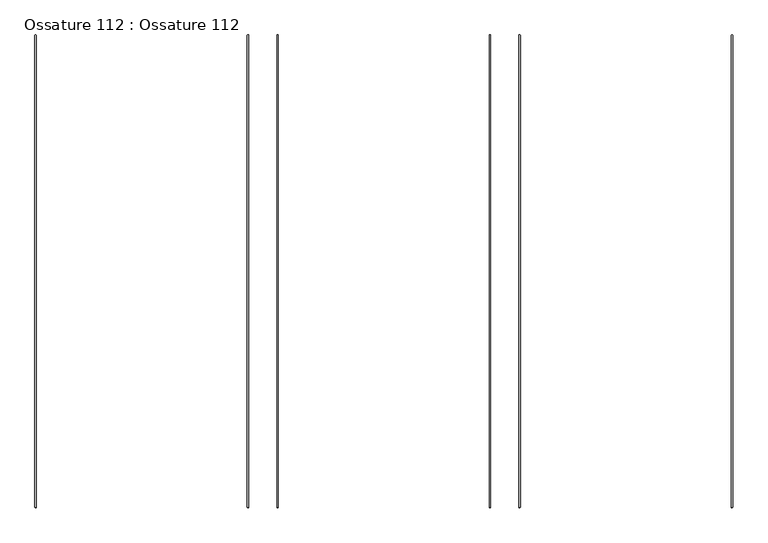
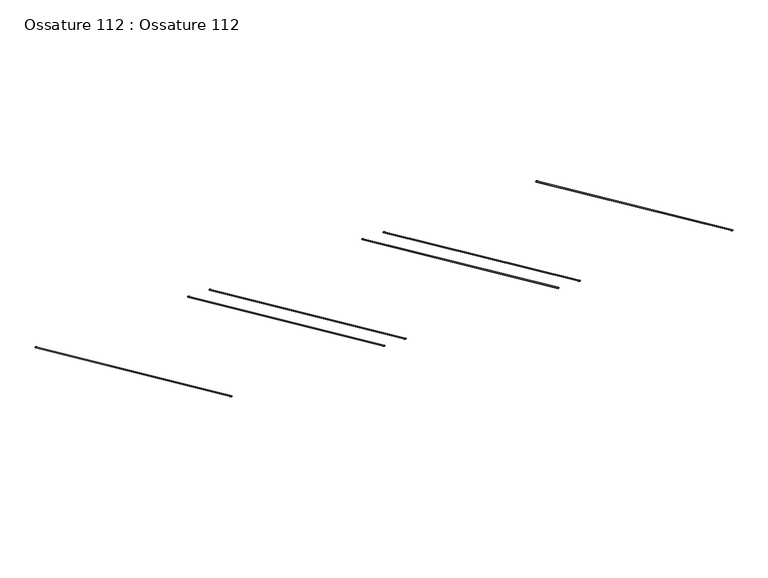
"""IFC4 building model written with IfcOpenShell, lengths in millimetres: beam geometry, Ossature 112 : Ossature 112."""

from ifc_helpers import new_model, si_unit, point, frame, origin, origin_2d, place, context, project, spatial, circle_curve, trimmed, segment, composite_curve, outline, extrude, source, transform, mapped, element, save


def ossature_112_ossature_112_9404aaf8(model_context):
    return source(origin(), model_context, "Body", "SweptSolid", [
        extrude(outline(composite_curve([segment(trimmed(circle_curve(origin_2d(), 2.5), [point((0.0, 2.5))], [point((0.0, -2.5))], False, "CARTESIAN"), True, "CONTINUOUS"), segment(trimmed(circle_curve(origin_2d(), 2.5), [point((0.0, -2.5))], [point((0.0, 2.5))], False, "CARTESIAN"), True, "CONTINUOUS")], self_intersect=False)), frame((11066.9133059, 12171.6969318, 6212.786968), z_axis=(0.0, -0.9104161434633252, 0.41369366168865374), x_axis=(0.0, 0.41369366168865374, 0.9104161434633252)), (0.0, 0.0, 1.0), 1892.0516048),
        extrude(outline(composite_curve([segment(trimmed(circle_curve(origin_2d(), 2.5), [point((0.0, 2.5))], [point((0.0, -2.5))], False, "CARTESIAN"), True, "CONTINUOUS"), segment(trimmed(circle_curve(origin_2d(), 2.5), [point((0.0, -2.5))], [point((0.0, 2.5))], False, "CARTESIAN"), True, "CONTINUOUS")], self_intersect=False)), frame((9300.2466393, 12171.6969318, 6212.786968), z_axis=(0.0, -0.9104161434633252, 0.41369366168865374), x_axis=(0.0, 0.41369366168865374, 0.9104161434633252)), (0.0, 0.0, 1.0), 1892.0516048),
        extrude(outline(composite_curve([segment(trimmed(circle_curve(origin_2d(), 2.5), [point((0.0, 2.5))], [point((0.0, -2.5))], False, "CARTESIAN"), True, "CONTINUOUS"), segment(trimmed(circle_curve(origin_2d(), 2.5), [point((0.0, -2.5))], [point((0.0, 2.5))], False, "CARTESIAN"), True, "CONTINUOUS")], self_intersect=False)), frame((10183.5799726, 12171.6969318, 6212.786968), z_axis=(0.0, -0.9104161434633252, 0.41369366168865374), x_axis=(0.0, 0.41369366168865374, 0.9104161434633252)), (0.0, 0.0, 1.0), 1892.0516048),
        extrude(outline(composite_curve([segment(trimmed(circle_curve(origin_2d(), 2.5), [point((0.0, -2.5))], [point((0.0, 2.5))], False, "CARTESIAN"), True, "CONTINUOUS"), segment(trimmed(circle_curve(origin_2d(), 2.5), [point((0.0, 2.5))], [point((0.0, -2.5))], False, "CARTESIAN"), True, "CONTINUOUS")], self_intersect=False)), frame((10075.5799726, 12171.6969318, 6212.786968), z_axis=(0.0, -0.9104161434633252, 0.41369366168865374), x_axis=(0.0, 0.41369366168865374, 0.9104161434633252)), (0.0, 0.0, 1.0), 1892.0516048),
        extrude(outline(composite_curve([segment(trimmed(circle_curve(origin_2d(), 2.5), [point((0.0, -2.5))], [point((0.0, 2.5))], False, "CARTESIAN"), True, "CONTINUOUS"), segment(trimmed(circle_curve(origin_2d(), 2.5), [point((0.0, 2.5))], [point((0.0, -2.5))], False, "CARTESIAN"), True, "CONTINUOUS")], self_intersect=False)), frame((10958.9133059, 12171.6969318, 6212.786968), z_axis=(0.0, -0.9104161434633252, 0.41369366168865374), x_axis=(0.0, 0.41369366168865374, 0.9104161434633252)), (0.0, 0.0, 1.0), 1892.0516048),
        extrude(outline(composite_curve([segment(trimmed(circle_curve(origin_2d(), 2.5), [point((0.0, -2.5))], [point((0.0, 2.5))], False, "CARTESIAN"), True, "CONTINUOUS"), segment(trimmed(circle_curve(origin_2d(), 2.5), [point((0.0, 2.5))], [point((0.0, -2.5))], False, "CARTESIAN"), True, "CONTINUOUS")], self_intersect=False)), frame((11842.2466393, 12171.6969318, 6212.786968), z_axis=(0.0, -0.9104161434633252, 0.41369366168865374), x_axis=(0.0, 0.41369366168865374, 0.9104161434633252)), (0.0, 0.0, 1.0), 1892.0516048),
    ])


if __name__ == "__main__":
    model = new_model("IFC4")
    model_context = context("Model", 3, world=origin())
    ifc_project = project(units=[si_unit("LENGTHUNIT", "METRE", prefix="MILLI")], contexts=[model_context])
    site = spatial("IfcSite", under=ifc_project)
    building = spatial("IfcBuilding", under=site)
    placement = place(None, origin())
    ossature_112_ossature_112_shape = ossature_112_ossature_112_9404aaf8(model_context)
    element("IfcBeam", 1, ObjectType="Ossature 112 : Ossature 112", at=placement, inside=building, context=model_context, shape_type="MappedRepresentation", body=[
        mapped(ossature_112_ossature_112_shape, transform((0.0, 0.0, 0.0), x_axis=(1.0, 0.0, 0.0), y_axis=(0.0, 1.0, 0.0), z_axis=(0.0, 0.0, 1.0))),
    ])
    save(model, "model.ifc")
